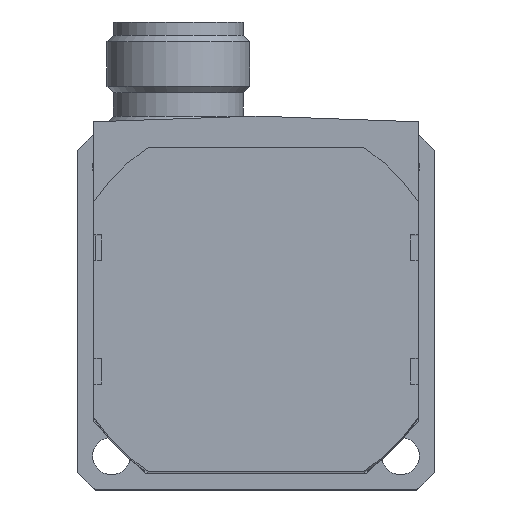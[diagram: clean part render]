
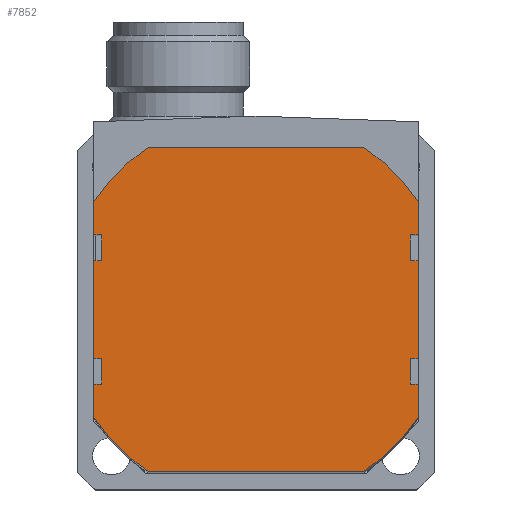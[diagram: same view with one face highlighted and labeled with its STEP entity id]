
A CAD part, top view. The second image highlights one B-rep face of the part: STEP entity #7852.
In plain terms, the highlighted planar face has unit normal (0, 0, 1).
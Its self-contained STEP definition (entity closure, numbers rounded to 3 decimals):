
#1865=LINE('',#11285,#9365);
#1866=LINE('',#11288,#9366);
#1867=LINE('',#11290,#9367);
#1868=LINE('',#11292,#9368);
#1869=LINE('',#11296,#9369);
#1870=LINE('',#11300,#9370);
#1871=LINE('',#11302,#9371);
#1872=LINE('',#11304,#9372);
#1873=LINE('',#11306,#9373);
#1874=LINE('',#11308,#9374);
#1875=LINE('',#11310,#9375);
#1876=LINE('',#11312,#9376);
#1877=LINE('',#11314,#9377);
#1878=LINE('',#11316,#9378);
#1879=LINE('',#11320,#9379);
#1880=LINE('',#11324,#9380);
#1881=LINE('',#11326,#9381);
#1882=LINE('',#11328,#9382);
#1883=LINE('',#11330,#9383);
#1884=LINE('',#11332,#9384);
#2616=VERTEX_POINT('',#11286);
#2617=VERTEX_POINT('',#11287);
#2618=VERTEX_POINT('',#11289);
#2619=VERTEX_POINT('',#11291);
#2620=VERTEX_POINT('',#11293);
#2621=VERTEX_POINT('',#11295);
#2622=VERTEX_POINT('',#11297);
#2623=VERTEX_POINT('',#11299);
#2624=VERTEX_POINT('',#11301);
#2625=VERTEX_POINT('',#11303);
#2626=VERTEX_POINT('',#11305);
#2627=VERTEX_POINT('',#11307);
#2628=VERTEX_POINT('',#11309);
#2629=VERTEX_POINT('',#11311);
#2630=VERTEX_POINT('',#11313);
#2631=VERTEX_POINT('',#11315);
#2632=VERTEX_POINT('',#11317);
#2633=VERTEX_POINT('',#11319);
#2634=VERTEX_POINT('',#11321);
#2635=VERTEX_POINT('',#11323);
#2636=VERTEX_POINT('',#11325);
#2637=VERTEX_POINT('',#11327);
#2638=VERTEX_POINT('',#11329);
#2639=VERTEX_POINT('',#11331);
#3263=CIRCLE('',#8497,30.);
#3264=CIRCLE('',#8498,30.);
#3265=CIRCLE('',#8499,30.);
#3266=CIRCLE('',#8500,30.);
#3781=EDGE_CURVE('',#2616,#2617,#1865,.T.);
#3782=EDGE_CURVE('',#2618,#2616,#1866,.T.);
#3783=EDGE_CURVE('',#2619,#2618,#1867,.T.);
#3784=EDGE_CURVE('',#2620,#2619,#1868,.T.);
#3785=EDGE_CURVE('',#2621,#2620,#3263,.T.);
#3786=EDGE_CURVE('',#2622,#2621,#1869,.T.);
#3787=EDGE_CURVE('',#2623,#2622,#3264,.T.);
#3788=EDGE_CURVE('',#2624,#2623,#1870,.T.);
#3789=EDGE_CURVE('',#2625,#2624,#1871,.T.);
#3790=EDGE_CURVE('',#2626,#2625,#1872,.T.);
#3791=EDGE_CURVE('',#2627,#2626,#1873,.T.);
#3792=EDGE_CURVE('',#2628,#2627,#1874,.T.);
#3793=EDGE_CURVE('',#2629,#2628,#1875,.T.);
#3794=EDGE_CURVE('',#2630,#2629,#1876,.T.);
#3795=EDGE_CURVE('',#2631,#2630,#1877,.T.);
#3796=EDGE_CURVE('',#2632,#2631,#1878,.T.);
#3797=EDGE_CURVE('',#2633,#2632,#3265,.T.);
#3798=EDGE_CURVE('',#2634,#2633,#1879,.T.);
#3799=EDGE_CURVE('',#2635,#2634,#3266,.T.);
#3800=EDGE_CURVE('',#2636,#2635,#1880,.T.);
#3801=EDGE_CURVE('',#2637,#2636,#1881,.T.);
#3802=EDGE_CURVE('',#2638,#2637,#1882,.T.);
#3803=EDGE_CURVE('',#2639,#2638,#1883,.T.);
#3804=EDGE_CURVE('',#2617,#2639,#1884,.T.);
#5069=ORIENTED_EDGE('',*,*,#3781,.F.);
#5070=ORIENTED_EDGE('',*,*,#3782,.F.);
#5071=ORIENTED_EDGE('',*,*,#3783,.F.);
#5072=ORIENTED_EDGE('',*,*,#3784,.F.);
#5073=ORIENTED_EDGE('',*,*,#3785,.F.);
#5074=ORIENTED_EDGE('',*,*,#3786,.F.);
#5075=ORIENTED_EDGE('',*,*,#3787,.F.);
#5076=ORIENTED_EDGE('',*,*,#3788,.F.);
#5077=ORIENTED_EDGE('',*,*,#3789,.F.);
#5078=ORIENTED_EDGE('',*,*,#3790,.F.);
#5079=ORIENTED_EDGE('',*,*,#3791,.F.);
#5080=ORIENTED_EDGE('',*,*,#3792,.F.);
#5081=ORIENTED_EDGE('',*,*,#3793,.F.);
#5082=ORIENTED_EDGE('',*,*,#3794,.F.);
#5083=ORIENTED_EDGE('',*,*,#3795,.F.);
#5084=ORIENTED_EDGE('',*,*,#3796,.F.);
#5085=ORIENTED_EDGE('',*,*,#3797,.F.);
#5086=ORIENTED_EDGE('',*,*,#3798,.F.);
#5087=ORIENTED_EDGE('',*,*,#3799,.F.);
#5088=ORIENTED_EDGE('',*,*,#3800,.F.);
#5089=ORIENTED_EDGE('',*,*,#3801,.F.);
#5090=ORIENTED_EDGE('',*,*,#3802,.F.);
#5091=ORIENTED_EDGE('',*,*,#3803,.F.);
#5092=ORIENTED_EDGE('',*,*,#3804,.F.);
#6818=EDGE_LOOP('',(#5069,#5070,#5071,#5072,#5073,#5074,#5075,#5076,#5077,
#5078,#5079,#5080,#5081,#5082,#5083,#5084,#5085,#5086,#5087,#5088,#5089,
#5090,#5091,#5092));
#7347=FACE_BOUND('',#6818,.T.);
#7852=ADVANCED_FACE('',(#7347),#9828,.T.);
#8496=AXIS2_PLACEMENT_3D('',#11284,#15405,$);
#8497=AXIS2_PLACEMENT_3D('',#11294,#15410,#15411);
#8498=AXIS2_PLACEMENT_3D('',#11298,#15413,#15414);
#8499=AXIS2_PLACEMENT_3D('',#11318,#15424,#15425);
#8500=AXIS2_PLACEMENT_3D('',#11322,#15427,#15428);
#9365=VECTOR('',#15406,1.);
#9366=VECTOR('',#15407,1.);
#9367=VECTOR('',#15408,1.);
#9368=VECTOR('',#15409,1.);
#9369=VECTOR('',#15412,1.);
#9370=VECTOR('',#15415,1.);
#9371=VECTOR('',#15416,1.);
#9372=VECTOR('',#15417,1.);
#9373=VECTOR('',#15418,1.);
#9374=VECTOR('',#15419,1.);
#9375=VECTOR('',#15420,1.);
#9376=VECTOR('',#15421,1.);
#9377=VECTOR('',#15422,1.);
#9378=VECTOR('',#15423,1.);
#9379=VECTOR('',#15426,1.);
#9380=VECTOR('',#15429,1.);
#9381=VECTOR('',#15430,1.);
#9382=VECTOR('',#15431,1.);
#9383=VECTOR('',#15432,1.);
#9384=VECTOR('',#15433,1.);
#9828=PLANE('',#8496);
#11284=CARTESIAN_POINT('',(0.,0.,118.5));
#11285=CARTESIAN_POINT('',(23.8,7.5,118.5));
#11286=CARTESIAN_POINT('',(23.8,7.5,118.5));
#11287=CARTESIAN_POINT('',(25.,7.5,118.5));
#11288=CARTESIAN_POINT('',(23.8,11.5,118.5));
#11289=CARTESIAN_POINT('',(23.8,11.5,118.5));
#11290=CARTESIAN_POINT('',(25.,11.5,118.5));
#11291=CARTESIAN_POINT('',(25.,11.5,118.5));
#11292=CARTESIAN_POINT('',(25.,16.583,118.5));
#11293=CARTESIAN_POINT('',(25.,16.583,118.5));
#11294=CARTESIAN_POINT('',(0.,0.,118.5));
#11295=CARTESIAN_POINT('',(16.583,25.,118.5));
#11296=CARTESIAN_POINT('',(-16.583,25.,118.5));
#11297=CARTESIAN_POINT('',(-16.583,25.,118.5));
#11298=CARTESIAN_POINT('',(0.,0.,118.5));
#11299=CARTESIAN_POINT('',(-25.,16.583,118.5));
#11300=CARTESIAN_POINT('',(-25.,11.5,118.5));
#11301=CARTESIAN_POINT('',(-25.,11.5,118.5));
#11302=CARTESIAN_POINT('',(-23.8,11.5,118.5));
#11303=CARTESIAN_POINT('',(-23.8,11.5,118.5));
#11304=CARTESIAN_POINT('',(-23.8,7.5,118.5));
#11305=CARTESIAN_POINT('',(-23.8,7.5,118.5));
#11306=CARTESIAN_POINT('',(-25.,7.5,118.5));
#11307=CARTESIAN_POINT('',(-25.,7.5,118.5));
#11308=CARTESIAN_POINT('',(-25.,-7.5,118.5));
#11309=CARTESIAN_POINT('',(-25.,-7.5,118.5));
#11310=CARTESIAN_POINT('',(-23.8,-7.5,118.5));
#11311=CARTESIAN_POINT('',(-23.8,-7.5,118.5));
#11312=CARTESIAN_POINT('',(-23.8,-11.5,118.5));
#11313=CARTESIAN_POINT('',(-23.8,-11.5,118.5));
#11314=CARTESIAN_POINT('',(-25.,-11.5,118.5));
#11315=CARTESIAN_POINT('',(-25.,-11.5,118.5));
#11316=CARTESIAN_POINT('',(-25.,-16.583,118.5));
#11317=CARTESIAN_POINT('',(-25.,-16.583,118.5));
#11318=CARTESIAN_POINT('',(0.,0.,118.5));
#11319=CARTESIAN_POINT('',(-16.583,-25.,118.5));
#11320=CARTESIAN_POINT('',(16.583,-25.,118.5));
#11321=CARTESIAN_POINT('',(16.583,-25.,118.5));
#11322=CARTESIAN_POINT('',(0.,0.,118.5));
#11323=CARTESIAN_POINT('',(25.,-16.583,118.5));
#11324=CARTESIAN_POINT('',(25.,-11.5,118.5));
#11325=CARTESIAN_POINT('',(25.,-11.5,118.5));
#11326=CARTESIAN_POINT('',(23.8,-11.5,118.5));
#11327=CARTESIAN_POINT('',(23.8,-11.5,118.5));
#11328=CARTESIAN_POINT('',(23.8,-7.5,118.5));
#11329=CARTESIAN_POINT('',(23.8,-7.5,118.5));
#11330=CARTESIAN_POINT('',(25.,-7.5,118.5));
#11331=CARTESIAN_POINT('',(25.,-7.5,118.5));
#11332=CARTESIAN_POINT('',(25.,7.5,118.5));
#15405=DIRECTION('',(0.,0.,1.));
#15406=DIRECTION('',(1.,0.,0.));
#15407=DIRECTION('',(0.,-1.,0.));
#15408=DIRECTION('',(-1.,0.,0.));
#15409=DIRECTION('',(0.,-1.,0.));
#15410=DIRECTION('',(0.,0.,-1.));
#15411=DIRECTION('',(30.,0.,0.));
#15412=DIRECTION('',(1.,0.,0.));
#15413=DIRECTION('',(0.,0.,-1.));
#15414=DIRECTION('',(30.,0.,0.));
#15415=DIRECTION('',(0.,1.,0.));
#15416=DIRECTION('',(-1.,0.,0.));
#15417=DIRECTION('',(0.,1.,0.));
#15418=DIRECTION('',(1.,0.,0.));
#15419=DIRECTION('',(0.,1.,0.));
#15420=DIRECTION('',(-1.,0.,0.));
#15421=DIRECTION('',(0.,1.,0.));
#15422=DIRECTION('',(1.,0.,0.));
#15423=DIRECTION('',(0.,1.,0.));
#15424=DIRECTION('',(0.,0.,-1.));
#15425=DIRECTION('',(30.,0.,0.));
#15426=DIRECTION('',(-1.,0.,0.));
#15427=DIRECTION('',(0.,0.,-1.));
#15428=DIRECTION('',(30.,0.,0.));
#15429=DIRECTION('',(0.,-1.,0.));
#15430=DIRECTION('',(1.,0.,0.));
#15431=DIRECTION('',(0.,-1.,0.));
#15432=DIRECTION('',(-1.,0.,0.));
#15433=DIRECTION('',(0.,-1.,0.));
